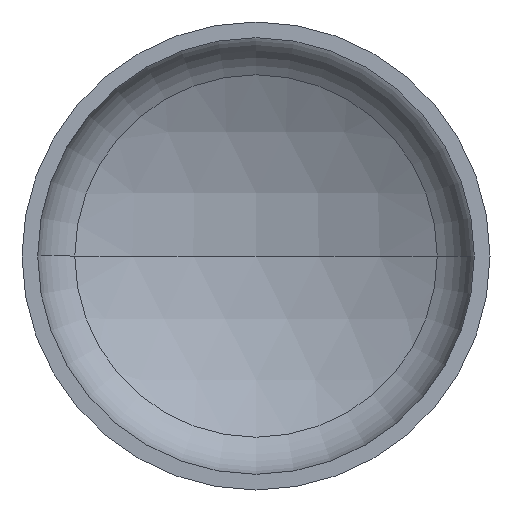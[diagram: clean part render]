
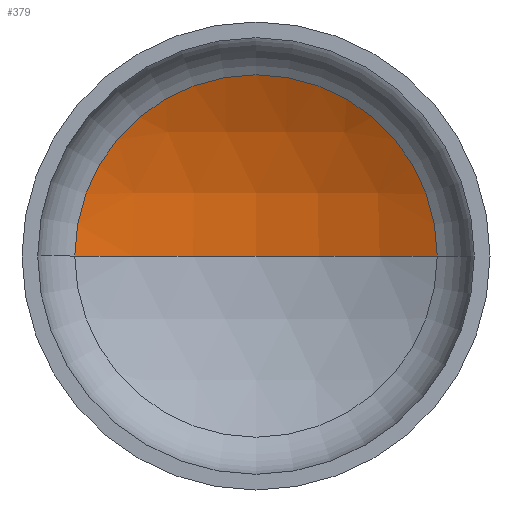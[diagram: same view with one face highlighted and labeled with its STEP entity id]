
A CAD part, front view. The second image highlights one B-rep face of the part: STEP entity #379.
In plain terms, the highlighted spherical face has radius 2240 mm.
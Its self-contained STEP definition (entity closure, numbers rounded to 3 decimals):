
#1 = AXIS2_PLACEMENT_3D ( 'NONE', #139, #73, #104 ) ;
#3 = AXIS2_PLACEMENT_3D ( 'NONE', #394, #211, #48 ) ;
#6 = DIRECTION ( 'NONE',  ( 1., 0., 0. ) ) ;
#22 = ORIENTED_EDGE ( 'NONE', *, *, #347, .T. ) ;
#34 = AXIS2_PLACEMENT_3D ( 'NONE', #397, #258, #6 ) ;
#44 = ORIENTED_EDGE ( 'NONE', *, *, #352, .F. ) ;
#48 = DIRECTION ( 'NONE',  ( -1., 0., 0. ) ) ;
#54 = VERTEX_POINT ( 'NONE', #286 ) ;
#73 = DIRECTION ( 'NONE',  ( 0., 0., 1. ) ) ;
#81 = EDGE_CURVE ( 'NONE', #178, #54, #382, .T. ) ;
#104 = DIRECTION ( 'NONE',  ( 1., 0., 0. ) ) ;
#110 = CARTESIAN_POINT ( 'NONE',  ( 0., 756.105, 0. ) ) ;
#128 = AXIS2_PLACEMENT_3D ( 'NONE', #407, #153, #332 ) ;
#134 = CIRCLE ( 'NONE', #3, 2240. ) ;
#139 = CARTESIAN_POINT ( 'NONE',  ( 0., -1483.895, 0. ) ) ;
#153 = DIRECTION ( 'NONE',  ( 0., 0., -1. ) ) ;
#160 = ORIENTED_EDGE ( 'NONE', *, *, #81, .T. ) ;
#178 = VERTEX_POINT ( 'NONE', #205 ) ;
#205 = CARTESIAN_POINT ( 'NONE',  ( 1084.11, 476.284, 0. ) ) ;
#211 = DIRECTION ( 'NONE',  ( 0., 0., -1. ) ) ;
#230 = CIRCLE ( 'NONE', #1, 2240. ) ;
#258 = DIRECTION ( 'NONE',  ( 0., -1., 0. ) ) ;
#271 = SPHERICAL_SURFACE ( 'NONE', #128, 2240. ) ;
#286 = CARTESIAN_POINT ( 'NONE',  ( -1084.11, 476.284, 0. ) ) ;
#303 = EDGE_LOOP ( 'NONE', ( #44, #22, #160 ) ) ;
#332 = DIRECTION ( 'NONE',  ( -1., 0., 0. ) ) ;
#347 = EDGE_CURVE ( 'NONE', #408, #178, #134, .T. ) ;
#349 = FACE_OUTER_BOUND ( 'NONE', #303, .T. ) ;
#352 = EDGE_CURVE ( 'NONE', #408, #54, #230, .T. ) ;
#379 = ADVANCED_FACE ( 'NONE', ( #349 ), #271, .F. ) ;
#382 = CIRCLE ( 'NONE', #34, 1084.11 ) ;
#394 = CARTESIAN_POINT ( 'NONE',  ( 0., -1483.895, 0. ) ) ;
#397 = CARTESIAN_POINT ( 'NONE',  ( 0., 476.284, 0. ) ) ;
#407 = CARTESIAN_POINT ( 'NONE',  ( 0., -1483.895, 0. ) ) ;
#408 = VERTEX_POINT ( 'NONE', #110 ) ;
